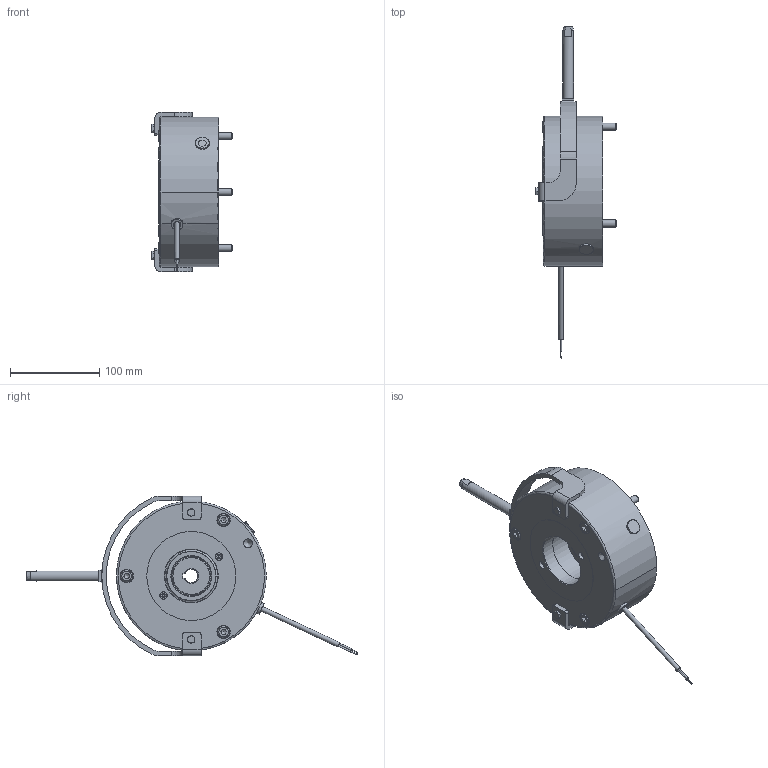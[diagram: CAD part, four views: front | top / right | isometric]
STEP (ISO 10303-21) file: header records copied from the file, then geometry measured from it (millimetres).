
FILE_DESCRIPTION(/* description */ (''),/* implementation_level */ '2;1');
FILE_NAME(/* name */ 'C:\SapWorkDir\Inventor\IP1\ConvertTempPath\5028801_IPT_000.ipt.stp',/* time_stamp */ '2020-09-18T11:38:39+02:00',/* author */ ('STRATE'),/* organization */ (''),/* preprocessor_version */ 'ST-DEVELOPER v17',/* originating_system */ 'Autodesk Inventor 2018',/* authorisation */ '');
FILE_SCHEMA (('AUTOMOTIVE_DESIGN { 1 0 10303 214 3 1 1 }'));
Length unit declared in the file: millimetre
Products named in the file (1): 5028801
Bounding box: 90.6 x 372.51 x 179 mm (x, y, z)
Volume: 1308616.1 mm3; surface area: 203719.7 mm2
Topology: 3 solids, 3 shells, 626 faces, 1718 edges, 1155 vertices
Faces by surface type: cylinder 373, plane 170, cone 61, torus 22
Full cylindrical faces by diameter (mm): 0.01 x1, 1 x2, 1.85 x2, 5 x4, 5.3 x3, 6 x2, 6.3 x2, 6.4 x2, 6.6 x1, 6.9 x2, 7 x6, 7.6 x1, 8 x3, 8.376 x2, 9 x2, 9.2 x2, 9.8 x3, 10 x3, 11 x2, 12 x1, 13 x3, 13.2 x1, 13.9 x3, 15 x5, 16 x1, 60 x1, 60.2 x1, 60.5 x1, 79.5 x2, 80.1 x2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
Entity records: 21945 total; most frequent: CARTESIAN_POINT 5277, ORIENTED_EDGE 3436, DIRECTION 3285, EDGE_CURVE 1718, AXIS2_PLACEMENT_3D 1330, VERTEX_POINT 1155, EDGE_LOOP 719, CIRCLE 703
